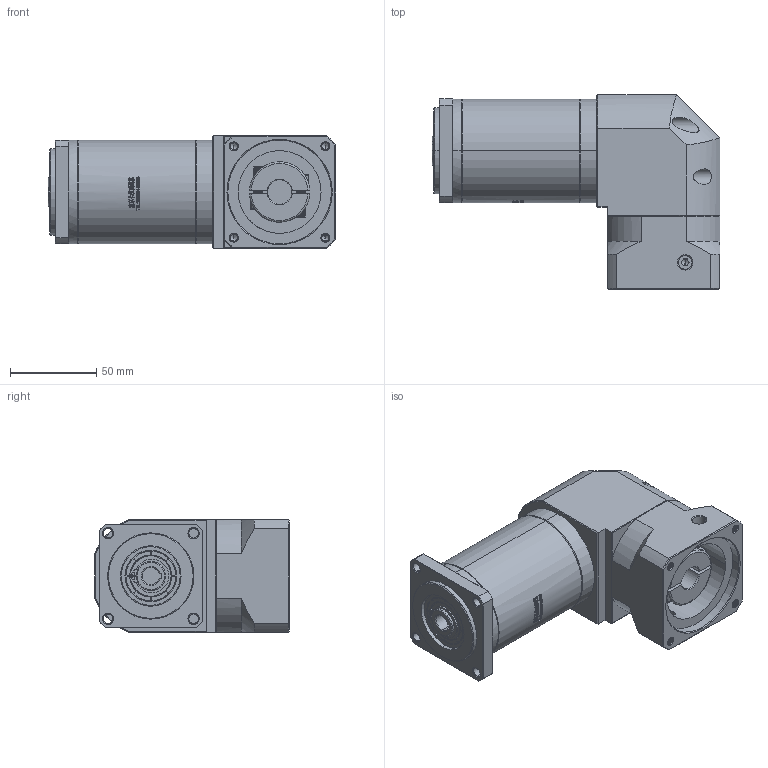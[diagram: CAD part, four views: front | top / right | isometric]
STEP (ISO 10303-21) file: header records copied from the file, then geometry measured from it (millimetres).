
FILE_DESCRIPTION (( 'STEP AP214' ), '1' );
FILE_NAME ('ZFR60-K10-L3-14-60-75-M5.STEP', '2022-04-20T09:06:02', ( '' ), ( 'Microsoft' ), 'SwSTEP 2.0', 'SolidWorks 2016', '' );
FILE_SCHEMA (( 'AUTOMOTIVE_DESIGN' ));
Length unit declared in the file: millimetre
Products named in the file (1): ZFR60-K10-L3-14-60-75-M5
Bounding box: 166.5 x 112.7 x 65 mm (x, y, z)
Volume: 643583.8 mm3; surface area: 85650.3 mm2
Topology: 5 solids, 6 shells, 2627 faces, 7174 edges, 4683 vertices
Faces by surface type: plane 1390, bspline 572, cylinder 359, cone 282, torus 24
Entity records: 142881 total; most frequent: CARTESIAN_POINT 52752, ORIENTED_EDGE 14308, DIRECTION 10340, EDGE_CURVE 7154, VERTEX_POINT 4683, VECTOR 4338, LINE 4338, AXIS2_PLACEMENT_3D 3001
